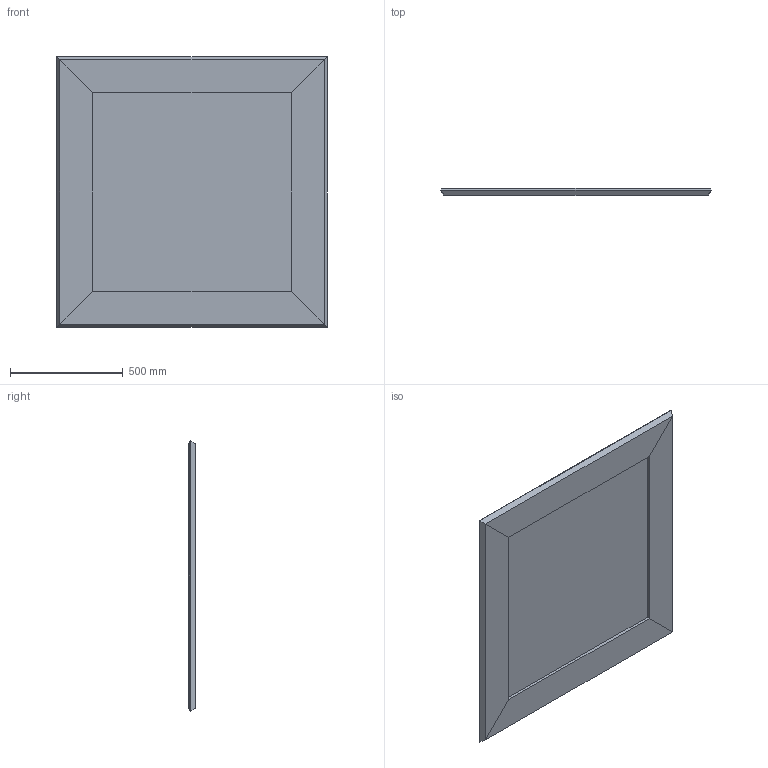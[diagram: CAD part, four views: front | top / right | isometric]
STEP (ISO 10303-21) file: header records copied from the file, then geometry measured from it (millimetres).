
FILE_DESCRIPTION (( 'STEP AP203' ), '1' );
FILE_NAME ('PRI02_Prisma_120x120.STEP', '2024-08-06T07:46:03', ( '' ), ( '' ), 'SwSTEP 2.0', 'SolidWorks 2022', '' );
FILE_SCHEMA (( 'CONFIG_CONTROL_DESIGN' ));
Length unit declared in the file: millimetre
Products named in the file (1): PRI02_Prisma_120x120
Bounding box: 1200 x 30 x 1200 mm (x, y, z)
Volume: 26179186.2 mm3; surface area: 3383255.9 mm2
Topology: 5 solids, 5 shells, 166 faces, 424 edges, 272 vertices
Faces by surface type: plane 98, cylinder 44, cone 24
Entity records: 5101 total; most frequent: DIRECTION 870, CARTESIAN_POINT 863, ORIENTED_EDGE 848, EDGE_CURVE 424, LINE 312, VECTOR 312, AXIS2_PLACEMENT_3D 279, VERTEX_POINT 272
